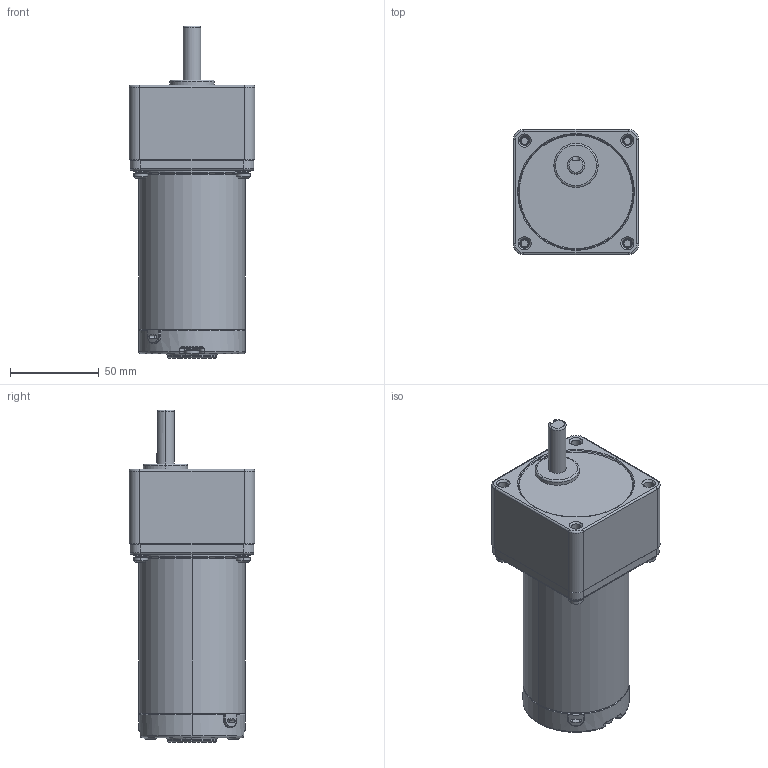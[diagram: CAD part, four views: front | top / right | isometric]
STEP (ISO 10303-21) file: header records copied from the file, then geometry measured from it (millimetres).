
FILE_DESCRIPTION (( 'STEP AP203' ), '1' );
FILE_NAME ('70 88儂褲囀离.STEP', '2021-07-13T08:41:01', ( '' ), ( '' ), 'SwSTEP 2.0', 'SolidWorks 2019', '' );
FILE_SCHEMA (( 'CONFIG_CONTROL_DESIGN' ));
Length unit declared in the file: millimetre
Products named in the file (14): HOUGAI; 装配体51^装配体43_装配体31_70 51机壳内置; PENGDIAN; 装配体43^装配体31_70 51机壳内置; LUDING; 70 88儂褲囀离; 装配体44^装配体32_70 51机壳内置; JIKE; 蚾饜极31^70 51儂褲囀离; TANDIAN; 70喘謫眊_1; 装配体52^装配体44_装配体32_70 51机壳内置; QIANGAI-70; 蚾饜极32^70 51儂褲囀离
Assembly tree (28 placements, depth 5):
  70 88儂褲囀离
    TANDIAN  x4
    蚾饜极31^70 51儂褲囀离
      装配体43^装配体31_70 51机壳内置
        装配体51^装配体43_装配体31_70 51机壳内置
          LUDING
          TANDIAN
          PENGDIAN
    蚾饜极32^70 51儂褲囀离
      装配体44^装配体32_70 51机壳内置
        装配体52^装配体44_装配体32_70 51机壳内置
          LUDING
          TANDIAN
          PENGDIAN
    LUDING  x4
    PENGDIAN  x4
    HOUGAI
    QIANGAI-70
    JIKE
    70喘謫眊_1
Bounding box: 70.8 x 70.8 x 187.5 mm (x, y, z)
Volume: 284362.7 mm3; surface area: 85349.2 mm2
Topology: 23 solids, 23 shells, 598 faces, 1407 edges, 863 vertices
Faces by surface type: cylinder 198, cone 187, plane 147, bspline 33, torus 33
Entity records: 11537 total; most frequent: CARTESIAN_POINT 3078, DIRECTION 1488, ORIENTED_EDGE 1318, EDGE_CURVE 659, AXIS2_PLACEMENT_3D 620, VERTEX_POINT 408, CIRCLE 323, EDGE_LOOP 317
